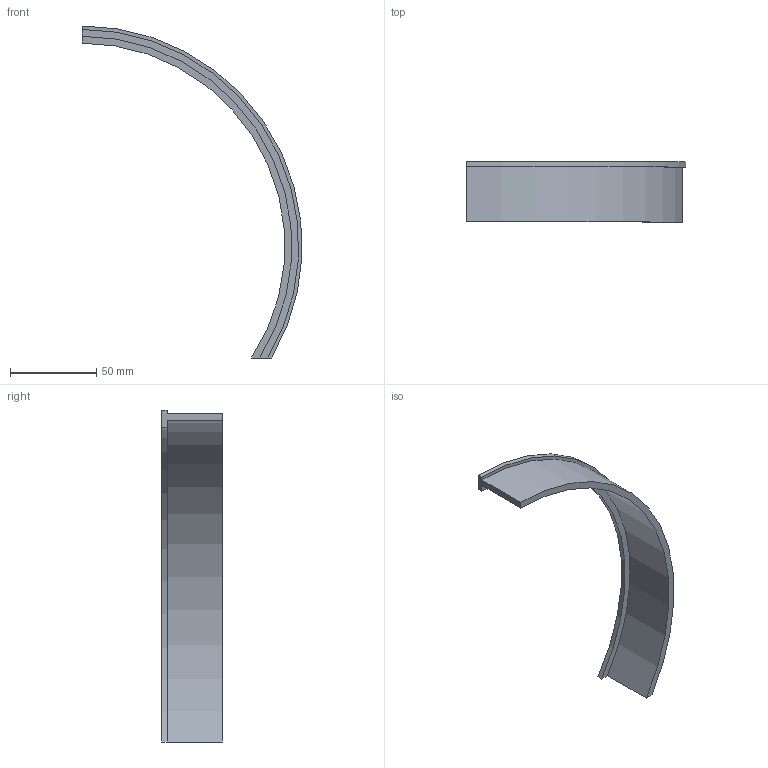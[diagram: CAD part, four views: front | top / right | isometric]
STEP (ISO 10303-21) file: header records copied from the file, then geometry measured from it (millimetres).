
FILE_DESCRIPTION(('Open CASCADE Model'),'2;1');
FILE_NAME('Open CASCADE Shape Model','2026-11-03T04:29:35',('Author'),( 'Open CASCADE'),'Open CASCADE STEP processor 7.8','Open CASCADE 7.8' ,'Unknown');
FILE_SCHEMA(('AUTOMOTIVE_DESIGN { 1 0 10303 214 1 1 1 1 }'));
Length unit declared in the file: millimetre
Products named in the file (1): Open CASCADE STEP translator 7.8 31
Bounding box: 127.86 x 35 x 193 mm (x, y, z)
Volume: 41540.5 mm3; surface area: 23992.9 mm2
Topology: 1 solids, 1 shells, 10 faces, 24 edges, 16 vertices
Faces by surface type: plane 6, cylinder 4
Entity records: 606 total; most frequent: CARTESIAN_POINT 111, DIRECTION 90, ORIENTED_EDGE 48, PCURVE 48, DEFINITIONAL_REPRESENTATION 48, LINE 44, VECTOR 44, EDGE_CURVE 24
